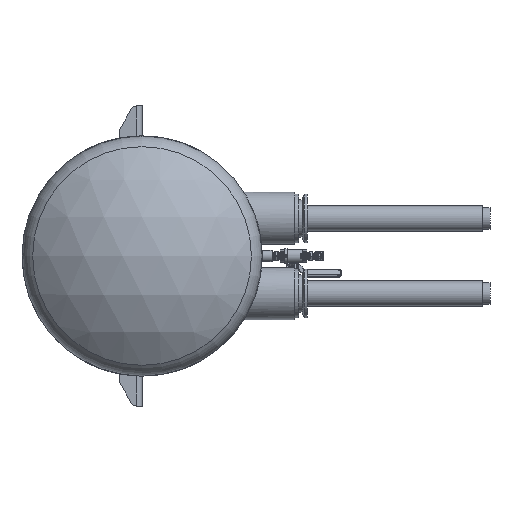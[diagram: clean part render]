
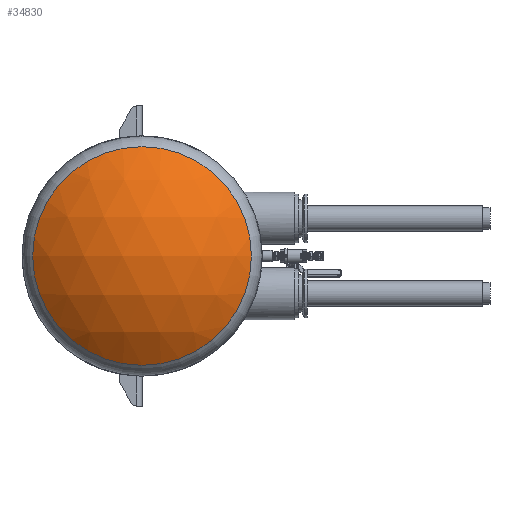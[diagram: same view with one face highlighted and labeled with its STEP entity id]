
A CAD part, left-side view. The second image highlights one B-rep face of the part: STEP entity #34830.
In plain terms, the highlighted spherical face has radius 287.38 mm.
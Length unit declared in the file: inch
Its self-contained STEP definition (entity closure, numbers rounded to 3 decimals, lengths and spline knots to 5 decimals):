
#2808 = EDGE_LOOP ( 'NONE', ( #56519 ) ) ;
#9174 = AXIS2_PLACEMENT_3D ( 'NONE', #149436, #26100, #93946 ) ;
#26100 = DIRECTION ( 'NONE',  ( 0., 0., 1. ) ) ;
#34830 = ADVANCED_FACE ( 'NONE', ( #87838 ), #133607, .T. ) ;
#39680 = DIRECTION ( 'NONE',  ( 1., 0., 0. ) ) ;
#56519 = ORIENTED_EDGE ( 'NONE', *, *, #141755, .F. ) ;
#87838 = FACE_OUTER_BOUND ( 'NONE', #2808, .T. ) ;
#93470 = DIRECTION ( 'NONE',  ( 0., 0., -1. ) ) ;
#93946 = DIRECTION ( 'NONE',  ( 0., 1., 0. ) ) ;
#94978 = CARTESIAN_POINT ( 'NONE',  ( -43.83975, 0., -7.28836 ) ) ;
#98398 = VERTEX_POINT ( 'NONE', #94978 ) ;
#101545 = CIRCLE ( 'NONE', #171871, 7.28836 ) ;
#105810 = CARTESIAN_POINT ( 'NONE',  ( -43.83975, 0., 0. ) ) ;
#133607 = SPHERICAL_SURFACE ( 'NONE', #9174, 11.31418 ) ;
#141755 = EDGE_CURVE ( 'NONE', #98398, #98398, #101545, .T. ) ;
#149436 = CARTESIAN_POINT ( 'NONE',  ( -35.18582, 0., 0. ) ) ;
#171871 = AXIS2_PLACEMENT_3D ( 'NONE', #105810, #39680, #93470 ) ;
